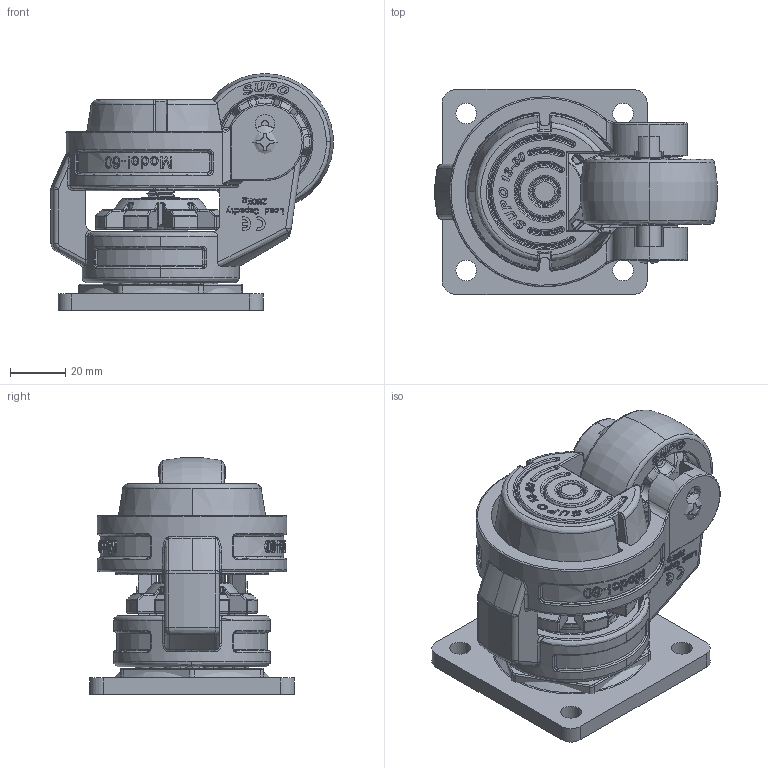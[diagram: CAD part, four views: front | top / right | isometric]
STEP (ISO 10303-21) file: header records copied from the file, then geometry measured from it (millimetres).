
FILE_DESCRIPTION (( 'STEP AP214' ), '1' );
FILE_NAME ('HT13-01-60F-643.STEP', '2025-10-01T09:41:23', ( '' ), ( '' ), 'SwSTEP 2.0', 'SolidWorks 2022', '' );
FILE_SCHEMA (( 'AUTOMOTIVE_DESIGN' ));
Length unit declared in the file: millimetre
Products named in the file (1): HT13-01-60F-643
Bounding box: 102.58 x 74.5 x 86.06 mm (x, y, z)
Volume: 249046.5 mm3; surface area: 98032.2 mm2
Topology: 44 solids, 44 shells, 3311 faces, 8770 edges, 5584 vertices
Faces by surface type: bspline 1451, plane 1058, cylinder 516, cone 122, torus 82, sphere 82
Entity records: 201419 total; most frequent: CARTESIAN_POINT 95916, ORIENTED_EDGE 17140, DIRECTION 9763, EDGE_CURVE 8570, VERTEX_POINT 5487, VECTOR 3783, LINE 3783, EDGE_LOOP 3485
